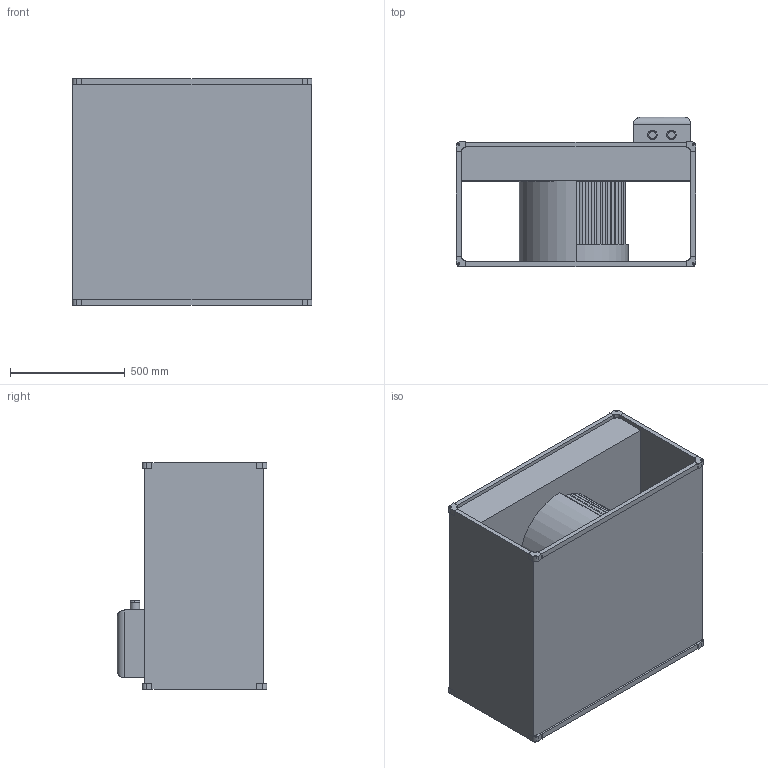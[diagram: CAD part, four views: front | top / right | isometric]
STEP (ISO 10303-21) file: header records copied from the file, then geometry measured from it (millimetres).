
FILE_DESCRIPTION(('STEP AP214'),'1');
FILE_NAME('fan_5132065300.stp','2017-03-31T18:13:20',('TraceParts'),('TraceParts S.A.'),'Spatial InterOp 3D',' ',' ');
FILE_SCHEMA(('automotive_design'));
Length unit declared in the file: millimetre
Products named in the file (1): fan_5132065300
Bounding box: 1042 x 650 x 987 mm (x, y, z)
Volume: 246421468.7 mm3; surface area: 7085818.1 mm2
Topology: 1 solids, 1 shells, 273 faces, 826 edges, 550 vertices
Faces by surface type: cylinder 154, plane 115, torus 4
Entity records: 11658 total; most frequent: DIRECTION 1724, ORIENTED_EDGE 1652, CARTESIAN_POINT 1650, EDGE_CURVE 826, AXIS2_PLACEMENT_3D 624, VERTEX_POINT 550, LINE 476, VECTOR 476
